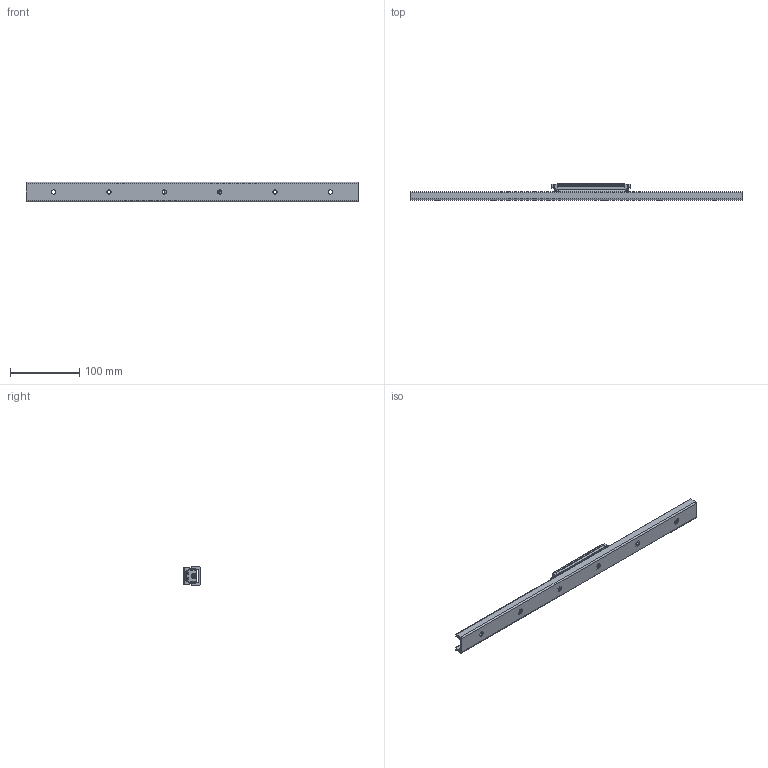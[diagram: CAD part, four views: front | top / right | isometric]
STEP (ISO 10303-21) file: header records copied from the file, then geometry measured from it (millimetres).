
FILE_DESCRIPTION(/* description */ ('STEP AP214'),/* implementation_level */ '2;1');
FILE_NAME(/* name */ 'AWG28RA1SS+480L(2000)',/* time_stamp */ '2024-10-17T13:43:02+02:00',/* author */ ('License CC BY-ND 4.0'),/* organization */ ('CADENAS'),/* preprocessor_version */ 'ST-DEVELOPER v19.3',/* originating_system */ 'PARTsolutions',/* authorisation */ ' ');
FILE_SCHEMA (('AUTOMOTIVE_DESIGN {1 0 10303 214 3 1 1}'));
Length unit declared in the file: millimetre
Products named in the file (5): AWG28RA1SS+480L(2000); AWG28RA1SS+480L A-M4F 200 0_rail; AWG28RA1SS+480L_carriage; AWG28RA_SSL_seal; AWG-RA_A-M4F_grease_nipple
Assembly tree (6 placements, depth 2):
  AWG28RA1SS+480L(2000)
    AWG28RA1SS+480L A-M4F 200 0_rail
    AWG28RA1SS+480L_carriage
    AWG28RA_SSL_seal  x2
    AWG-RA_A-M4F_grease_nipple  x2
Bounding box: 480 x 24 x 28 mm (x, y, z)
Volume: 107700.3 mm3; surface area: 71130.7 mm2
Topology: 6 solids, 9 shells, 922 faces, 2305 edges, 1482 vertices
Faces by surface type: plane 499, cylinder 290, cone 85, torus 40, sphere 4, bspline 4
Full cylindrical faces by diameter (mm): 2 x8, 2.46 x4, 2.5 x2, 3 x4, 3.2 x4, 3.3 x2, 4 x2, 4.08 x3, 4.13 x3, 4.134 x4, 4.2 x2, 4.3 x2, 5 x3, 5.3 x3, 5.5 x7, 5.9 x2, 6 x12, 8 x3, 8.5 x3, 9.5 x6, 10 x3, 11 x3, 13.95 x2, 14 x3, 14.88 x6, 18.92 x6
Entity records: 21889 total; most frequent: CARTESIAN_POINT 4076, DIRECTION 3784, ORIENTED_EDGE 3432, EDGE_CURVE 1716, AXIS2_PLACEMENT_3D 1423, VERTEX_POINT 1197, FACE_BOUND 991, EDGE_LOOP 982
